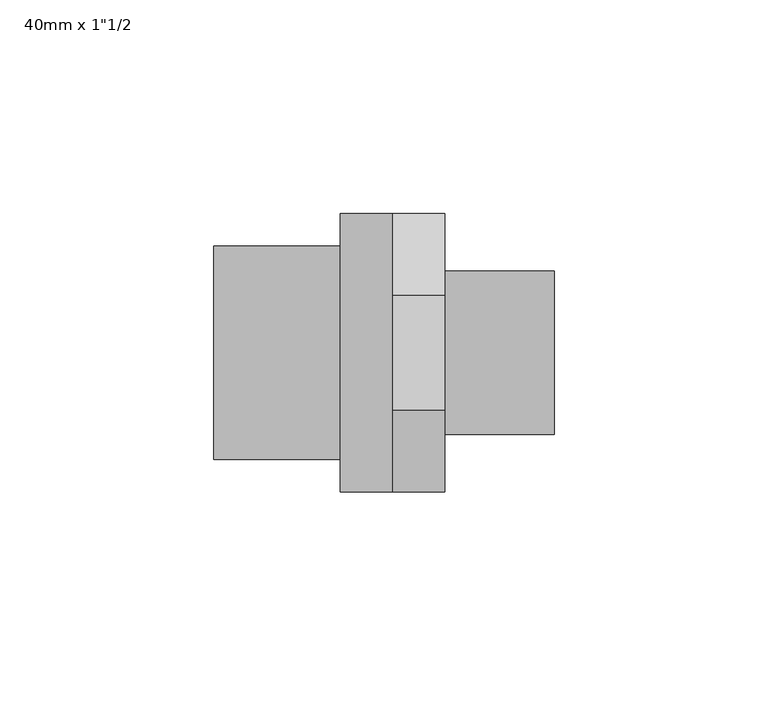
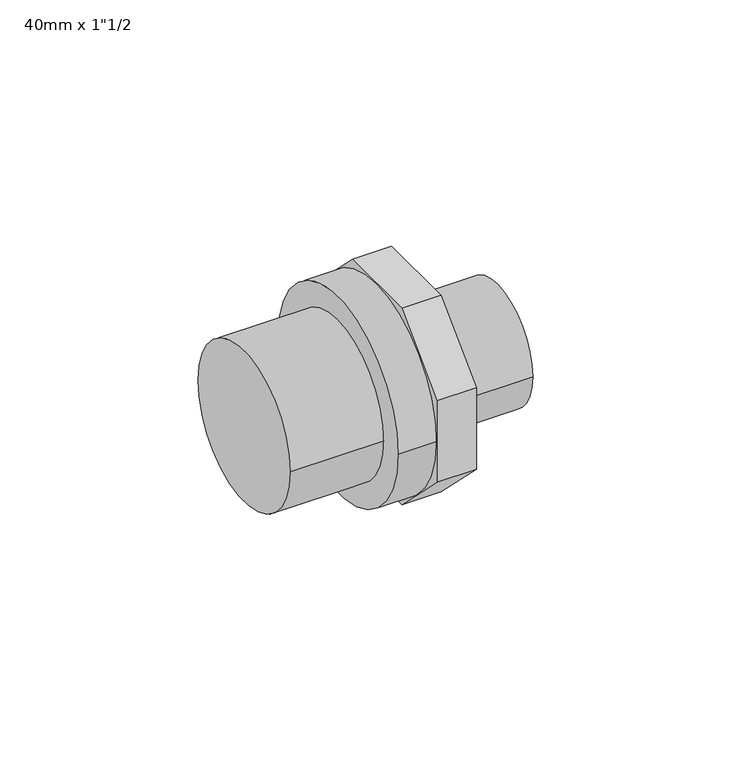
"""IFC4 building model written with IfcOpenShell, lengths in millimetres: pipe fitting geometry."""

import ifcopenshell
import ifcopenshell.guid

model = None  # the IFC model being written
_history = None  # IfcOwnerHistory: only IFC2X3 demands one
_inside = {}  # id of a spatial element -> (the spatial element, [elements in it])
_under = {}  # id of a project, library or spatial element -> (it, [spatial elements below it])
_declared = {}  # id of a project -> (the project, [libraries it declares])
_typed = {}  # id of a type object -> (the type object, [elements of that type])
_made_of = {}  # id of a material, layer set ... -> (it, [elements and type objects made of it])


def new_model(schema):
    """Start an empty IFC model of exactly this schema.

    Asked for "IFC4X3", IfcOpenShell would pick the latest addendum, in which some entities
    have other attributes; the version numbers below select the first issue.
    IFC2X3 requires an IfcOwnerHistory on every rooted entity: one is made here for all.
    """
    global model, _history
    if schema == "IFC4X3":
        model = ifcopenshell.file(schema_version=(4, 3, 0, 0))
    else:
        model = ifcopenshell.file(schema=schema)
    _inside.clear()
    _under.clear()
    _declared.clear()
    _typed.clear()
    _made_of.clear()
    _history = None
    if model.schema == "IFC2X3":
        org = make("IfcOrganization", Name="unknown")
        user = make(
            "IfcPersonAndOrganization",
            ThePerson=make("IfcPerson", FamilyName="unknown"),
            TheOrganization=org,
        )
        app = make(
            "IfcApplication",
            ApplicationDeveloper=org,
            Version="unknown",
            ApplicationFullName="unknown",
            ApplicationIdentifier="unknown",
        )
        _history = make(
            "IfcOwnerHistory",
            OwningUser=user,
            OwningApplication=app,
            ChangeAction="ADDED",
            CreationDate=0,
        )
    return model


def make(cls, **values):
    """One entity of the class cls with the attributes given. An attribute that is None is left unset."""
    return model.create_entity(
        cls, **{name: value for name, value in values.items() if value is not None}
    )


def rooted(cls, **values):
    """An entity with a GlobalId (a new one), such as an element, a storey or a relation."""
    return make(cls, GlobalId=ifcopenshell.guid.new(), OwnerHistory=_history, **values)


def si_unit(unit_type, name, prefix=None):
    """IfcSIUnit, for example si_unit("LENGTHUNIT", "METRE", prefix="MILLI")."""
    return make("IfcSIUnit", UnitType=unit_type, Prefix=prefix, Name=name)


def assignment(units):
    """IfcUnitAssignment: the units of a project."""
    return None if units is None else make("IfcUnitAssignment", Units=units)


def point(xyz):
    """IfcCartesianPoint."""
    return None if xyz is None else make("IfcCartesianPoint", Coordinates=xyz)


def direction(xyz):
    """IfcDirection."""
    return None if xyz is None else make("IfcDirection", DirectionRatios=xyz)


def frame(location, z_axis=None, x_axis=None):
    """IfcAxis2Placement3D, a coordinate frame: its origin and axes. An axis left out is left unset."""
    return make(
        "IfcAxis2Placement3D",
        Location=point(location),
        Axis=direction(z_axis),
        RefDirection=direction(x_axis),
    )


def frame_2d(location, x_axis=None):
    """IfcAxis2Placement2D, a coordinate frame in the plane: its origin and x axis."""
    return make(
        "IfcAxis2Placement2D", Location=point(location), RefDirection=direction(x_axis)
    )


def origin():
    """The frame at (0, 0, 0) with its axes left unset."""
    return frame((0.0, 0.0, 0.0))


def origin_2d():
    """The frame at (0, 0) in the plane with its x axis left unset."""
    return frame_2d((0.0, 0.0))


def place(relative_to, where):
    """IfcLocalPlacement: puts the frame where relative to a parent placement (None: the world)."""
    return make(
        "IfcLocalPlacement", PlacementRelTo=relative_to, RelativePlacement=where
    )


def context(
    kind, dimensions, precision=None, world=None, true_north=None, identifier=None
):
    """IfcGeometricRepresentationContext, for example the 3D "Model" context."""
    return make(
        "IfcGeometricRepresentationContext",
        ContextIdentifier=identifier,
        ContextType=kind,
        CoordinateSpaceDimension=dimensions,
        Precision=precision,
        WorldCoordinateSystem=world,
        TrueNorth=true_north,
    )


def project(units=None, contexts=None):
    """IfcProject with its units and contexts."""
    return rooted(
        "IfcProject",
        Name="project",
        RepresentationContexts=contexts,
        UnitsInContext=assignment(units),
    )


def spatial(cls, under=None, at=None, **own):
    """A site, building, storey or space (cls), placed at a placement, below another one or the project."""
    s = rooted(cls, ObjectPlacement=at, **own)
    if under is not None:
        _under.setdefault(under.id(), (under, []))[1].append(s)
    return s


def polyline(points):
    """IfcPolyline through the points."""
    return make("IfcPolyline", Points=[point(p) for p in points])


def circle_curve(where, radius):
    """IfcCircle in the frame where."""
    return make("IfcCircle", Position=where, Radius=radius)


def trimmed(basis, trim1, trim2, sense, master):
    """IfcTrimmedCurve: the piece of a basis curve between two trims."""
    return make(
        "IfcTrimmedCurve",
        BasisCurve=basis,
        Trim1=trim1,
        Trim2=trim2,
        SenseAgreement=sense,
        MasterRepresentation=master,
    )


def segment(curve, same_sense, transition):
    """IfcCompositeCurveSegment."""
    return make(
        "IfcCompositeCurveSegment",
        Transition=transition,
        SameSense=same_sense,
        ParentCurve=curve,
    )


def composite_curve(segments, self_intersect=None):
    """IfcCompositeCurve: segments joined end to end."""
    return make("IfcCompositeCurve", Segments=segments, SelfIntersect=self_intersect)


def outline(outer, holes=None, kind="AREA"):
    """IfcArbitraryClosedProfileDef: a profile drawn as a closed curve; with holes, ...WithVoids."""
    if holes is None:
        return make("IfcArbitraryClosedProfileDef", ProfileType=kind, OuterCurve=outer)
    return make(
        "IfcArbitraryProfileDefWithVoids",
        ProfileType=kind,
        OuterCurve=outer,
        InnerCurves=holes,
    )


def extrude(swept, where, along, depth):
    """IfcExtrudedAreaSolid: the profile swept, set in the frame where, extruded along a direction by depth."""
    return make(
        "IfcExtrudedAreaSolid",
        SweptArea=swept,
        Position=where,
        ExtrudedDirection=direction(along),
        Depth=depth,
    )


def shape(context_of_items, identifier, shape_type, items):
    """IfcShapeRepresentation: the items that make up one representation, for example the "Body"."""
    return make(
        "IfcShapeRepresentation",
        ContextOfItems=context_of_items,
        RepresentationIdentifier=identifier,
        RepresentationType=shape_type,
        Items=items,
    )


def source(mapping_origin, context_of_items, identifier, shape_type, items):
    """IfcRepresentationMap: a shape defined once, which mapped items show again and again."""
    return make(
        "IfcRepresentationMap",
        MappingOrigin=mapping_origin,
        MappedRepresentation=shape(context_of_items, identifier, shape_type, items),
    )


def transform(
    local_origin,
    x_axis=None,
    y_axis=None,
    z_axis=None,
    scale=None,
    scale2=None,
    scale3=None,
    uniform=True,
):
    """IfcCartesianTransformationOperator3D, or its non-uniform kind. x_axis, y_axis, z_axis: its Axis1, 2, 3."""
    if uniform:
        return make(
            "IfcCartesianTransformationOperator3D",
            Axis1=direction(x_axis),
            Axis2=direction(y_axis),
            LocalOrigin=point(local_origin),
            Scale=scale,
            Axis3=direction(z_axis),
        )
    return make(
        "IfcCartesianTransformationOperator3DnonUniform",
        Axis1=direction(x_axis),
        Axis2=direction(y_axis),
        LocalOrigin=point(local_origin),
        Scale=scale,
        Axis3=direction(z_axis),
        Scale2=scale2,
        Scale3=scale3,
    )


def mapped(mapping_source, mapping_target):
    """IfcMappedItem: shows the shape of a source again, moved by a transform."""
    return make(
        "IfcMappedItem", MappingSource=mapping_source, MappingTarget=mapping_target
    )


def made_of(thing, what):
    """Note that an element or type object is made of a material, layer set ...; save() writes the relation."""
    if what is not None:
        _made_of.setdefault(what.id(), (what, []))[1].append(thing)
    return thing


def element(
    cls,
    number,
    at=None,
    inside=None,
    cuts=None,
    type_object=None,
    material=None,
    context=None,
    identifier="Body",
    shape_type=None,
    held_by="IfcProductDefinitionShape",
    body=None,
    shapes=None,
    **own,
):
    """One element of the class cls, such as IfcWall. Its Tag is "e" and its number.

    at: its placement. inside: the storey or other place that contains it. cuts: it is an
    opening in that element (IfcRelVoidsElement). A single representation is given by context,
    identifier, shape_type and body (its items); several are given by shapes. held_by: the class
    of the entity that holds the representations. save() writes the other relations.
    """
    e = rooted(cls, Tag="e%d" % number, ObjectPlacement=at, **own)
    if body is not None:
        shapes = [shape(context, identifier, shape_type, body)]
    if shapes is not None:
        e.Representation = make(held_by, Representations=shapes)
    if inside is not None:
        _inside.setdefault(inside.id(), (inside, []))[1].append(e)
    if cuts is not None:
        rooted(
            "IfcRelVoidsElement", RelatingBuildingElement=cuts, RelatedOpeningElement=e
        )
    if type_object is not None:
        _typed.setdefault(type_object.id(), (type_object, []))[1].append(e)
    return made_of(e, material)


def aggregate(whole, parts):
    """IfcRelAggregates: a whole, such as a stair, and the parts it consists of."""
    return rooted("IfcRelAggregates", RelatingObject=whole, RelatedObjects=parts)


def save(model, path):
    """Write the relations noted so far, then the file.

    IfcRelAggregates (storeys below a building ...), IfcRelContainedInSpatialStructure (elements
    in a storey), IfcRelDefinesByType, IfcRelAssociatesMaterial and IfcRelDeclares: one each for
    every whole, place, type object, material and project.
    """
    for whole, parts in _under.values():
        aggregate(whole, parts)
    for where, things in _inside.values():
        rooted(
            "IfcRelContainedInSpatialStructure",
            RelatedElements=things,
            RelatingStructure=where,
        )
    for kind, things in _typed.values():
        rooted("IfcRelDefinesByType", RelatedObjects=things, RelatingType=kind)
    for what, things in _made_of.values():
        rooted("IfcRelAssociatesMaterial", RelatedObjects=things, RelatingMaterial=what)
    for by, libraries in _declared.values():
        rooted("IfcRelDeclares", RelatingContext=by, RelatedDefinitions=libraries)
    model.write(path)


def pipe_fitting_65b0531d(model_context):
    return source(origin(), model_context, "Body", "SweptSolid", [
        extrude(outline(composite_curve([segment(trimmed(circle_curve(origin_2d(), 19.05), [point((-19.05, 0.0))], [point((19.05, 0.0))], False, "CARTESIAN"), True, "CONTINUOUS"), segment(trimmed(circle_curve(origin_2d(), 19.05), [point((19.05, 0.0))], [point((-19.05, 0.0))], False, "CARTESIAN"), True, "CONTINUOUS")], self_intersect=False)), frame((39.25, 0.0, 0.0), z_axis=(1.0, 0.0, 0.0), x_axis=(0.0, 1.0, 0.0)), (0.0, 0.0, 1.0), 25.5),
        extrude(outline(polyline([(13.4619408, 32.5), (32.5, 13.4619408), (32.5, -13.4619408), (13.4619408, -32.5), (-13.4619408, -32.5), (-32.5, -13.4619408), (-32.5, 13.4619408), (-13.4619408, 32.5), (13.4619408, 32.5)])), frame((27.0, 0.0, 0.0), z_axis=(1.0, 0.0, 0.0), x_axis=(0.0, 1.0, 0.0)), (0.0, 0.0, 1.0), 12.25),
        extrude(outline(composite_curve([segment(trimmed(circle_curve(origin_2d(), 32.5), [point((-32.5, 0.0))], [point((32.5, 0.0))], False, "CARTESIAN"), True, "CONTINUOUS"), segment(trimmed(circle_curve(origin_2d(), 32.5), [point((32.5, 0.0))], [point((-32.5, 0.0))], False, "CARTESIAN"), True, "CONTINUOUS")], self_intersect=False)), frame((14.75, 0.0, 0.0), z_axis=(1.0, 0.0, 0.0), x_axis=(0.0, 1.0, 0.0)), (0.0, 0.0, 1.0), 12.25),
        extrude(outline(composite_curve([segment(trimmed(circle_curve(origin_2d(), 25.0), [point((-25.0, 0.0))], [point((25.0, 0.0))], False, "CARTESIAN"), True, "CONTINUOUS"), segment(trimmed(circle_curve(origin_2d(), 25.0), [point((25.0, 0.0))], [point((-25.0, 0.0))], False, "CARTESIAN"), True, "CONTINUOUS")], self_intersect=False)), frame((-14.75, 0.0, 0.0), z_axis=(1.0, 0.0, 0.0), x_axis=(0.0, 1.0, 0.0)), (0.0, 0.0, 1.0), 29.5),
    ])


if __name__ == "__main__":
    model = new_model("IFC4")
    model_context = context("Model", 3, world=origin())
    ifc_project = project(units=[si_unit("LENGTHUNIT", "METRE", prefix="MILLI")], contexts=[model_context])
    site = spatial("IfcSite", under=ifc_project)
    building = spatial("IfcBuilding", under=site)
    placement = place(None, origin())
    pipe_fitting_shape = pipe_fitting_65b0531d(model_context)
    element("IfcPipeFitting", 1, ObjectType="PipeFitting_HTA_CPVC_AdaptorNipplesB : 40mm x 1\"1/2", at=placement, inside=building, context=model_context, shape_type="MappedRepresentation", body=[
        mapped(pipe_fitting_shape, transform((0.0, 0.0, 0.0), x_axis=(1.0, 0.0, 0.0), y_axis=(0.0, 1.0, 0.0), z_axis=(0.0, 0.0, 1.0))),
    ])
    save(model, "model.ifc")
